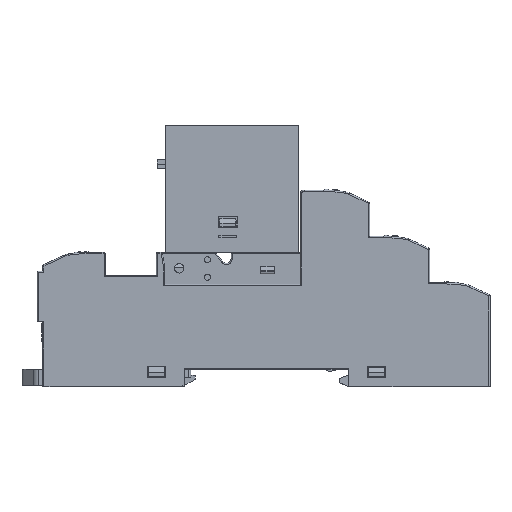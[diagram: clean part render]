
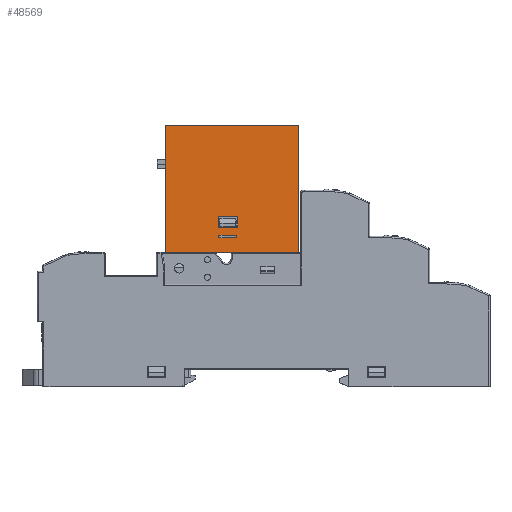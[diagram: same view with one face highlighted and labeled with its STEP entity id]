
A CAD part, top view. The second image highlights one B-rep face of the part: STEP entity #48569.
In plain terms, the highlighted planar face has unit normal (0, 0, 1) as drawn and (0, 0, -1) by its records, which use the part's own axes.
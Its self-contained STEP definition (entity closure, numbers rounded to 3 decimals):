
#1098 = LINE ( 'NONE', #34766, #50866 ) ;
#1147 = EDGE_CURVE ( 'NONE', #31550, #38869, #52103, .T. ) ;
#2173 = CARTESIAN_POINT ( 'NONE',  ( -0.55, 1.892, -6.3 ) ) ;
#3362 = ORIENTED_EDGE ( 'NONE', *, *, #28501, .F. ) ;
#3898 = FACE_BOUND ( 'NONE', #11371, .T. ) ;
#5193 = EDGE_CURVE ( 'NONE', #18256, #59088, #46288, .T. ) ;
#5301 = CARTESIAN_POINT ( 'NONE',  ( 3.3, -0.508, -6.3 ) ) ;
#6590 = AXIS2_PLACEMENT_3D ( 'NONE', #20864, #25859, #60548 ) ;
#7154 = VERTEX_POINT ( 'NONE', #61211 ) ;
#7728 = ORIENTED_EDGE ( 'NONE', *, *, #1147, .F. ) ;
#8785 = VECTOR ( 'NONE', #33131, 1000. ) ;
#8852 = ORIENTED_EDGE ( 'NONE', *, *, #40469, .F. ) ;
#10031 = DIRECTION ( 'NONE',  ( -1., 0., 0. ) ) ;
#10141 = ORIENTED_EDGE ( 'NONE', *, *, #19347, .T. ) ;
#10943 = ORIENTED_EDGE ( 'NONE', *, *, #53143, .F. ) ;
#11310 = EDGE_CURVE ( 'NONE', #60453, #22515, #50112, .T. ) ;
#11371 = EDGE_LOOP ( 'NONE', ( #3362, #40415, #10141, #50202 ) ) ;
#12219 = DIRECTION ( 'NONE',  ( 0., -1., 0. ) ) ;
#12366 = CARTESIAN_POINT ( 'NONE',  ( 3.3, -0.508, -6.3 ) ) ;
#12486 = VECTOR ( 'NONE', #28452, 1000. ) ;
#13563 = DIRECTION ( 'NONE',  ( 0., -1., 0. ) ) ;
#14859 = ORIENTED_EDGE ( 'NONE', *, *, #46311, .F. ) ;
#15368 = ORIENTED_EDGE ( 'NONE', *, *, #57689, .F. ) ;
#15867 = PLANE ( 'NONE',  #6590 ) ;
#18256 = VERTEX_POINT ( 'NONE', #63781 ) ;
#19347 = EDGE_CURVE ( 'NONE', #32724, #18256, #47190, .T. ) ;
#19969 = DIRECTION ( 'NONE',  ( 0., 1., 0. ) ) ;
#20471 = CARTESIAN_POINT ( 'NONE',  ( -0.8, 1.792, -6.3 ) ) ;
#20513 = VECTOR ( 'NONE', #25093, 1000. ) ;
#20753 = VECTOR ( 'NONE', #10031, 1000. ) ;
#20864 = CARTESIAN_POINT ( 'NONE',  ( -14., 9.792, -6.3 ) ) ;
#21126 = CARTESIAN_POINT ( 'NONE',  ( 14.8, 23.792, -6.3 ) ) ;
#22465 = CARTESIAN_POINT ( 'NONE',  ( -14., 23.792, -6.3 ) ) ;
#22515 = VERTEX_POINT ( 'NONE', #40521 ) ;
#22910 = CARTESIAN_POINT ( 'NONE',  ( 14.8, -3.708, -6.3 ) ) ;
#23721 = VECTOR ( 'NONE', #42270, 1000. ) ;
#23986 = CARTESIAN_POINT ( 'NONE',  ( 3.3, -0.008, -6.3 ) ) ;
#24573 = CARTESIAN_POINT ( 'NONE',  ( -14., -3.708, -6.3 ) ) ;
#25093 = DIRECTION ( 'NONE',  ( -1., 0., 0. ) ) ;
#25859 = DIRECTION ( 'NONE',  ( 0., 0., -1. ) ) ;
#27975 = EDGE_LOOP ( 'NONE', ( #7728, #14859, #10943, #39824 ) ) ;
#28156 = CARTESIAN_POINT ( 'NONE',  ( -14., -3.708, -6.3 ) ) ;
#28452 = DIRECTION ( 'NONE',  ( 1., 0., 0. ) ) ;
#28501 = EDGE_CURVE ( 'NONE', #39772, #59088, #48489, .T. ) ;
#28541 = CARTESIAN_POINT ( 'NONE',  ( 3.3, 1.892, -6.3 ) ) ;
#28571 = CARTESIAN_POINT ( 'NONE',  ( -0.8, 1.792, -6.3 ) ) ;
#29727 = CARTESIAN_POINT ( 'NONE',  ( -14., -3.708, -6.3 ) ) ;
#29966 = VECTOR ( 'NONE', #12219, 1000. ) ;
#30385 = FACE_OUTER_BOUND ( 'NONE', #48048, .T. ) ;
#31550 = VERTEX_POINT ( 'NONE', #62546 ) ;
#32724 = VERTEX_POINT ( 'NONE', #23986 ) ;
#33131 = DIRECTION ( 'NONE',  ( 0., -1., 0. ) ) ;
#33847 = CARTESIAN_POINT ( 'NONE',  ( 3.4, 1.792, -6.3 ) ) ;
#34318 = DIRECTION ( 'NONE',  ( 0., 1., 0. ) ) ;
#34766 = CARTESIAN_POINT ( 'NONE',  ( 14.8, -3.708, -6.3 ) ) ;
#36109 = EDGE_CURVE ( 'NONE', #44526, #36968, #52084, .T. ) ;
#36171 = LINE ( 'NONE', #37169, #60946 ) ;
#36968 = VERTEX_POINT ( 'NONE', #22910 ) ;
#37036 = VECTOR ( 'NONE', #13563, 1000. ) ;
#37169 = CARTESIAN_POINT ( 'NONE',  ( -0.8, 3.992, -6.3 ) ) ;
#38869 = VERTEX_POINT ( 'NONE', #28571 ) ;
#38967 = VECTOR ( 'NONE', #40264, 1000. ) ;
#39772 = VERTEX_POINT ( 'NONE', #12366 ) ;
#39824 = ORIENTED_EDGE ( 'NONE', *, *, #43039, .F. ) ;
#40264 = DIRECTION ( 'NONE',  ( -1., 0., 0. ) ) ;
#40415 = ORIENTED_EDGE ( 'NONE', *, *, #52416, .F. ) ;
#40469 = EDGE_CURVE ( 'NONE', #36968, #60453, #1098, .T. ) ;
#40521 = CARTESIAN_POINT ( 'NONE',  ( -14., 23.792, -6.3 ) ) ;
#42167 = DIRECTION ( 'NONE',  ( 1., 0., 0. ) ) ;
#42270 = DIRECTION ( 'NONE',  ( -1., 0., 0. ) ) ;
#42654 = VECTOR ( 'NONE', #34318, 1000. ) ;
#43039 = EDGE_CURVE ( 'NONE', #38869, #60485, #55769, .T. ) ;
#43609 = FACE_BOUND ( 'NONE', #27975, .T. ) ;
#44526 = VERTEX_POINT ( 'NONE', #24573 ) ;
#46288 = LINE ( 'NONE', #2173, #29966 ) ;
#46311 = EDGE_CURVE ( 'NONE', #7154, #31550, #55493, .T. ) ;
#47190 = LINE ( 'NONE', #59488, #20753 ) ;
#48048 = EDGE_LOOP ( 'NONE', ( #15368, #53741, #8852, #58673 ) ) ;
#48417 = LINE ( 'NONE', #28156, #8785 ) ;
#48489 = LINE ( 'NONE', #5301, #20513 ) ;
#48569 = ADVANCED_FACE ( 'NONE', ( #30385, #3898, #43609 ), #15867, .T. ) ;
#50112 = LINE ( 'NONE', #22465, #23721 ) ;
#50196 = LINE ( 'NONE', #28541, #37036 ) ;
#50202 = ORIENTED_EDGE ( 'NONE', *, *, #5193, .T. ) ;
#50429 = CARTESIAN_POINT ( 'NONE',  ( -0.55, -0.508, -6.3 ) ) ;
#50866 = VECTOR ( 'NONE', #19969, 1000. ) ;
#51487 = CARTESIAN_POINT ( 'NONE',  ( -0.8, 3.992, -6.3 ) ) ;
#52084 = LINE ( 'NONE', #29727, #12486 ) ;
#52103 = LINE ( 'NONE', #20471, #38967 ) ;
#52416 = EDGE_CURVE ( 'NONE', #32724, #39772, #50196, .T. ) ;
#53143 = EDGE_CURVE ( 'NONE', #60485, #7154, #36171, .T. ) ;
#53741 = ORIENTED_EDGE ( 'NONE', *, *, #11310, .F. ) ;
#53943 = VECTOR ( 'NONE', #58758, 1000. ) ;
#55493 = LINE ( 'NONE', #33847, #53943 ) ;
#55769 = LINE ( 'NONE', #64235, #42654 ) ;
#57689 = EDGE_CURVE ( 'NONE', #22515, #44526, #48417, .T. ) ;
#58673 = ORIENTED_EDGE ( 'NONE', *, *, #36109, .F. ) ;
#58758 = DIRECTION ( 'NONE',  ( 0., -1., 0. ) ) ;
#59088 = VERTEX_POINT ( 'NONE', #50429 ) ;
#59488 = CARTESIAN_POINT ( 'NONE',  ( -14., -0.008, -6.3 ) ) ;
#60453 = VERTEX_POINT ( 'NONE', #21126 ) ;
#60485 = VERTEX_POINT ( 'NONE', #51487 ) ;
#60548 = DIRECTION ( 'NONE',  ( 0., -1., 0. ) ) ;
#60946 = VECTOR ( 'NONE', #42167, 1000. ) ;
#61211 = CARTESIAN_POINT ( 'NONE',  ( 3.4, 3.992, -6.3 ) ) ;
#62546 = CARTESIAN_POINT ( 'NONE',  ( 3.4, 1.792, -6.3 ) ) ;
#63781 = CARTESIAN_POINT ( 'NONE',  ( -0.55, -0.008, -6.3 ) ) ;
#64235 = CARTESIAN_POINT ( 'NONE',  ( -0.8, 1.792, -6.3 ) ) ;
